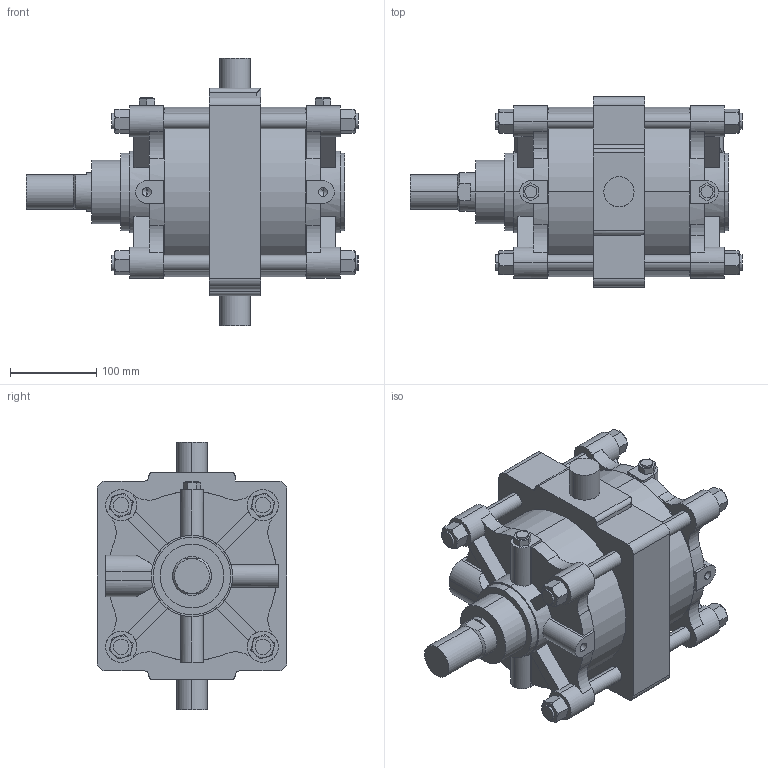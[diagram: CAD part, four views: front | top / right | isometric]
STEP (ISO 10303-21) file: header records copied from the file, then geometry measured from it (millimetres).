
FILE_DESCRIPTION (( 'STEP AP203' ), '1' );
FILE_NAME ('A##2-180#-100-T.STEP', '2016-03-31T06:59:06', ( '' ), ( '' ), 'SwSTEP 2.0', 'SolidWorks 2014', '' );
FILE_SCHEMA (( 'CONFIG_CONTROL_DESIGN' ));
Length unit declared in the file: millimetre
Products named in the file (7): A180-T; A180-100; A180-A; A##2-180#-100-T; A180-B
Assembly tree (16 placements, depth 2):
  A##2-180#-100-T
    A180-B
    A180-100
    A180-A
    (unnamed)  x8
    (unnamed)  x4
    A180-T
Bounding box: 384.5 x 220 x 310 mm (x, y, z)
Volume: 8717075.6 mm3; surface area: 679777.1 mm2
Topology: 16 solids, 18 shells, 423 faces, 1070 edges, 685 vertices
Faces by surface type: plane 211, cylinder 150, torus 48, cone 14
Entity records: 10903 total; most frequent: CARTESIAN_POINT 2142, DIRECTION 1729, ORIENTED_EDGE 1576, EDGE_CURVE 788, AXIS2_PLACEMENT_3D 660, VERTEX_POINT 519, LINE 409, VECTOR 409
